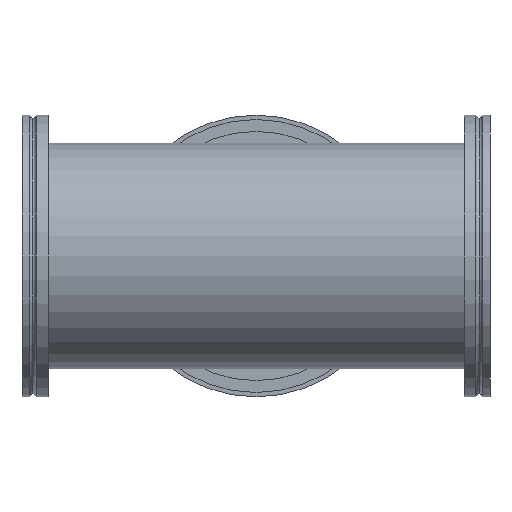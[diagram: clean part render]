
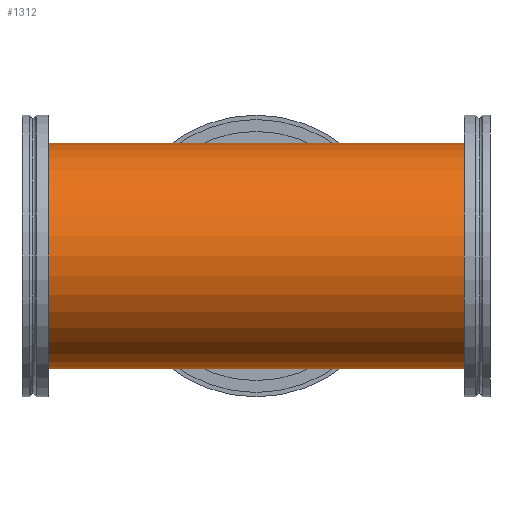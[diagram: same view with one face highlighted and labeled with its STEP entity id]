
A CAD part, left-side view. The second image highlights one B-rep face of the part: STEP entity #1312.
In plain terms, the highlighted cylindrical face has radius 52 mm (diameter 104 mm), a partial arc.
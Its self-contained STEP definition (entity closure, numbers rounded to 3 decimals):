
#90 = VERTEX_POINT ( 'NONE', #954 ) ;
#109 = LINE ( 'NONE', #522, #223 ) ;
#198 = CARTESIAN_POINT ( 'NONE',  ( 0., 108., -52. ) ) ;
#223 = VECTOR ( 'NONE', #2418, 1000. ) ;
#291 = CARTESIAN_POINT ( 'NONE',  ( 0., -0.002, -52. ) ) ;
#298 = ORIENTED_EDGE ( 'NONE', *, *, #2187, .T. ) ;
#522 = CARTESIAN_POINT ( 'NONE',  ( 0., -0.002, 52. ) ) ;
#544 = EDGE_CURVE ( 'NONE', #90, #1181, #752, .T. ) ;
#583 = VERTEX_POINT ( 'NONE', #1432 ) ;
#602 = ORIENTED_EDGE ( 'NONE', *, *, #544, .F. ) ;
#613 = CARTESIAN_POINT ( 'NONE',  ( 0., 8., 0. ) ) ;
#659 = DIRECTION ( 'NONE',  ( 0., 0., 1. ) ) ;
#706 = EDGE_CURVE ( 'NONE', #1458, #583, #109, .T. ) ;
#712 = DIRECTION ( 'NONE',  ( 0., 1., 0. ) ) ;
#752 = LINE ( 'NONE', #1754, #1852 ) ;
#809 = EDGE_LOOP ( 'NONE', ( #602, #1768, #298, #2163, #2157, #1368 ) ) ;
#820 = LINE ( 'NONE', #1979, #1565 ) ;
#954 = CARTESIAN_POINT ( 'NONE',  ( 0., 8., -52. ) ) ;
#1140 = VERTEX_POINT ( 'NONE', #2476 ) ;
#1181 = VERTEX_POINT ( 'NONE', #198 ) ;
#1216 = DIRECTION ( 'NONE',  ( 0., -1., 0. ) ) ;
#1227 = AXIS2_PLACEMENT_3D ( 'NONE', #1685, #1319, #1704 ) ;
#1265 = VERTEX_POINT ( 'NONE', #1553 ) ;
#1312 = ADVANCED_FACE ( 'NONE', ( #2408 ), #2026, .T. ) ;
#1319 = DIRECTION ( 'NONE',  ( 0., -1., 0. ) ) ;
#1368 = ORIENTED_EDGE ( 'NONE', *, *, #1792, .F. ) ;
#1427 = CIRCLE ( 'NONE', #1227, 52. ) ;
#1432 = CARTESIAN_POINT ( 'NONE',  ( 0., 208., 52. ) ) ;
#1453 = AXIS2_PLACEMENT_3D ( 'NONE', #613, #1216, #1966 ) ;
#1458 = VERTEX_POINT ( 'NONE', #2254 ) ;
#1499 = EDGE_CURVE ( 'NONE', #583, #1140, #1427, .T. ) ;
#1553 = CARTESIAN_POINT ( 'NONE',  ( 0., 8., 52. ) ) ;
#1565 = VECTOR ( 'NONE', #2211, 1000. ) ;
#1582 = DIRECTION ( 'NONE',  ( 0., 1., 0. ) ) ;
#1685 = CARTESIAN_POINT ( 'NONE',  ( 0., 208., 0. ) ) ;
#1704 = DIRECTION ( 'NONE',  ( 0., 0., -1. ) ) ;
#1754 = CARTESIAN_POINT ( 'NONE',  ( 0., -0.002, -52. ) ) ;
#1768 = ORIENTED_EDGE ( 'NONE', *, *, #2133, .F. ) ;
#1774 = AXIS2_PLACEMENT_3D ( 'NONE', #2423, #2395, #659 ) ;
#1792 = EDGE_CURVE ( 'NONE', #1181, #1140, #1970, .T. ) ;
#1803 = CIRCLE ( 'NONE', #1453, 52. ) ;
#1852 = VECTOR ( 'NONE', #1582, 1000. ) ;
#1966 = DIRECTION ( 'NONE',  ( 0., 0., -1. ) ) ;
#1970 = LINE ( 'NONE', #291, #2067 ) ;
#1979 = CARTESIAN_POINT ( 'NONE',  ( 0., -0.002, 52. ) ) ;
#2026 = CYLINDRICAL_SURFACE ( 'NONE', #1774, 52. ) ;
#2067 = VECTOR ( 'NONE', #712, 1000. ) ;
#2133 = EDGE_CURVE ( 'NONE', #1265, #90, #1803, .T. ) ;
#2157 = ORIENTED_EDGE ( 'NONE', *, *, #1499, .T. ) ;
#2163 = ORIENTED_EDGE ( 'NONE', *, *, #706, .T. ) ;
#2187 = EDGE_CURVE ( 'NONE', #1265, #1458, #820, .T. ) ;
#2211 = DIRECTION ( 'NONE',  ( 0., 1., 0. ) ) ;
#2254 = CARTESIAN_POINT ( 'NONE',  ( 0., 108., 52. ) ) ;
#2395 = DIRECTION ( 'NONE',  ( 0., 1., 0. ) ) ;
#2408 = FACE_OUTER_BOUND ( 'NONE', #809, .T. ) ;
#2418 = DIRECTION ( 'NONE',  ( 0., 1., 0. ) ) ;
#2423 = CARTESIAN_POINT ( 'NONE',  ( 0., -0.002, 0. ) ) ;
#2476 = CARTESIAN_POINT ( 'NONE',  ( 0., 208., -52. ) ) ;
